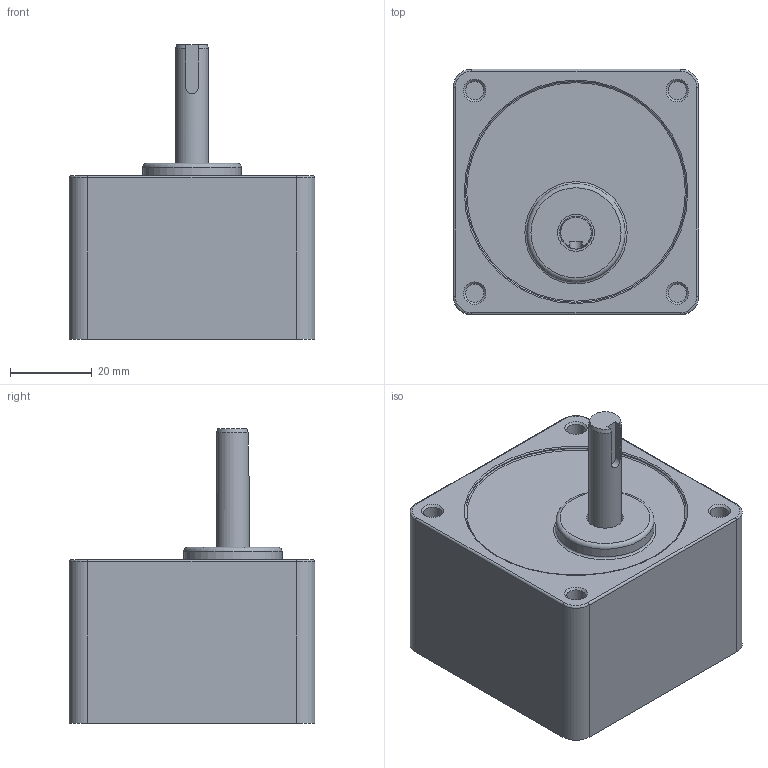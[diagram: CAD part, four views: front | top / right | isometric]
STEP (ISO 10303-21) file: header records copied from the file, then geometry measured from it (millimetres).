
FILE_DESCRIPTION((''),'2;1');
FILE_NAME('D:\STP파일\GEAR HEAD\6W\S6KA20~250.stp','2013-05-20T19:06:12',('leebh'),(''),'Autodesk Inventor 2011','Autodesk Inventor 2011','');
FILE_SCHEMA(('AUTOMOTIVE_DESIGN { 1 0 10303 214 1 1 1 1 }'));
Length unit declared in the file: millimetre
Products named in the file (1): S9I90G-T1
Bounding box: 60 x 60 x 72 mm (x, y, z)
Volume: 131464.1 mm3; surface area: 20418.7 mm2
Topology: 1 solids, 1 shells, 51 faces, 102 edges, 63 vertices
Faces by surface type: cylinder 19, plane 19, torus 8, cone 5
Full cylindrical faces by diameter (mm): 4.5 x4, 6 x1, 8 x1, 9 x1, 24 x1, 53.997 x1, 54 x1
Entity records: 1265 total; most frequent: DIRECTION 233, CARTESIAN_POINT 219, ORIENTED_EDGE 166, AXIS2_PLACEMENT_3D 102, EDGE_CURVE 83, EDGE_LOOP 79, VERTEX_POINT 62, FACE_OUTER_BOUND 51
